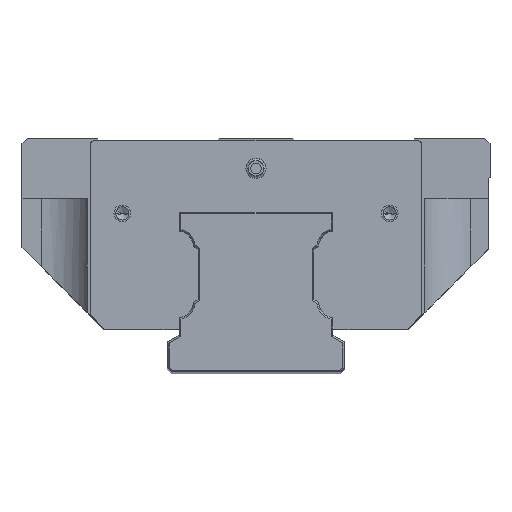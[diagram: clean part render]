
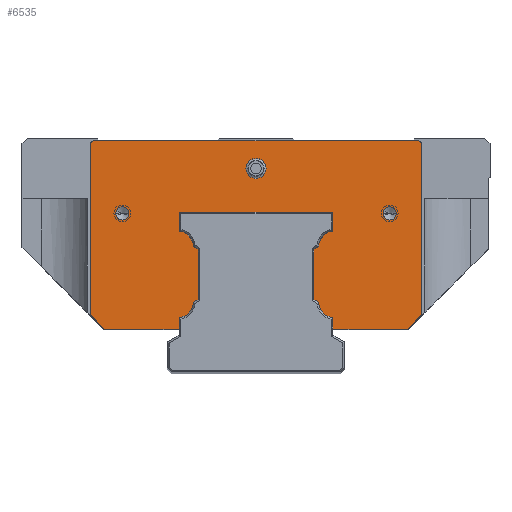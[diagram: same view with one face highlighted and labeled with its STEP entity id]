
A CAD part, top view. The second image highlights one B-rep face of the part: STEP entity #6535.
In plain terms, the highlighted planar face has unit normal (0, 0, 1).
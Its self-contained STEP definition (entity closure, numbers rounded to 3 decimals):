
#5539=CARTESIAN_POINT('',(48.5,-1.,21.7));
#5540=DIRECTION('',(0.,0.,1.));
#5541=DIRECTION('',(1.,0.,0.));
#5542=AXIS2_PLACEMENT_3D('',#5539,#5540,#5541);
#5547=DIRECTION('',(0.,1.,0.));
#5548=VECTOR('',#5547,51.1);
#5549=CARTESIAN_POINT('',(49.5,-52.1,21.7));
#5550=LINE('',#5549,#5548);
#5554=DIRECTION('',(0.707,0.707,0.));
#5555=VECTOR('',#5554,5.94);
#5556=CARTESIAN_POINT('',(45.3,-56.3,21.7));
#5557=LINE('',#5556,#5555);
#5561=DIRECTION('',(1.,0.,0.));
#5562=VECTOR('',#5561,22.3);
#5563=CARTESIAN_POINT('',(23.,-56.3,21.7));
#5564=LINE('',#5563,#5562);
#5568=DIRECTION('',(0.,1.,0.));
#5569=VECTOR('',#5568,3.295);
#5570=CARTESIAN_POINT('',(23.,-56.3,21.7));
#5571=LINE('',#5570,#5569);
#5575=CARTESIAN_POINT('',(23.571,-48.179,21.7));
#5576=DIRECTION('',(0.,0.,1.));
#5577=DIRECTION('',(-0.999,-0.039,0.));
#5578=AXIS2_PLACEMENT_3D('',#5575,#5576,#5577);
#5583=DIRECTION('',(-0.866,0.5,0.));
#5584=VECTOR('',#5583,1.633);
#5585=CARTESIAN_POINT('',(18.715,-48.367,21.7));
#5586=LINE('',#5585,#5584);
#5590=DIRECTION('',(0.,1.,0.));
#5591=VECTOR('',#5590,15.1);
#5592=CARTESIAN_POINT('',(17.3,-47.55,21.7));
#5593=LINE('',#5592,#5591);
#5597=DIRECTION('',(0.866,0.5,0.));
#5598=VECTOR('',#5597,1.633);
#5599=CARTESIAN_POINT('',(17.3,-32.45,21.7));
#5600=LINE('',#5599,#5598);
#5604=CARTESIAN_POINT('',(23.571,-31.821,21.7));
#5605=DIRECTION('',(0.,0.,1.));
#5606=DIRECTION('',(-0.117,0.993,0.));
#5607=AXIS2_PLACEMENT_3D('',#5604,#5605,#5606);
#5612=DIRECTION('',(0.,1.,0.));
#5613=VECTOR('',#5612,5.1);
#5614=CARTESIAN_POINT('',(23.,-26.995,21.7));
#5615=LINE('',#5614,#5613);
#5619=DIRECTION('',(-0.707,0.707,0.));
#5620=VECTOR('',#5619,0.7);
#5621=CARTESIAN_POINT('',(23.,-21.895,21.7));
#5622=LINE('',#5621,#5620);
#5626=DIRECTION('',(-1.,0.,0.));
#5627=VECTOR('',#5626,45.01);
#5628=CARTESIAN_POINT('',(22.505,-21.4,21.7));
#5629=LINE('',#5628,#5627);
#5633=DIRECTION('',(-0.707,-0.707,0.));
#5634=VECTOR('',#5633,0.7);
#5635=CARTESIAN_POINT('',(-22.505,-21.4,21.7));
#5636=LINE('',#5635,#5634);
#5640=DIRECTION('',(0.,-1.,0.));
#5641=VECTOR('',#5640,5.1);
#5642=CARTESIAN_POINT('',(-23.,-21.895,21.7));
#5643=LINE('',#5642,#5641);
#5647=CARTESIAN_POINT('',(-23.571,-31.821,21.7));
#5648=DIRECTION('',(0.,0.,1.));
#5649=DIRECTION('',(0.999,0.039,0.));
#5650=AXIS2_PLACEMENT_3D('',#5647,#5648,#5649);
#5655=DIRECTION('',(0.866,-0.5,0.));
#5656=VECTOR('',#5655,1.633);
#5657=CARTESIAN_POINT('',(-18.715,-31.633,21.7));
#5658=LINE('',#5657,#5656);
#5662=DIRECTION('',(0.,-1.,0.));
#5663=VECTOR('',#5662,15.1);
#5664=CARTESIAN_POINT('',(-17.3,-32.45,21.7));
#5665=LINE('',#5664,#5663);
#5669=DIRECTION('',(-0.866,-0.5,0.));
#5670=VECTOR('',#5669,1.633);
#5671=CARTESIAN_POINT('',(-17.3,-47.55,21.7));
#5672=LINE('',#5671,#5670);
#5676=CARTESIAN_POINT('',(-23.571,-48.179,21.7));
#5677=DIRECTION('',(0.,0.,1.));
#5678=DIRECTION('',(0.117,-0.993,0.));
#5679=AXIS2_PLACEMENT_3D('',#5676,#5677,#5678);
#5684=DIRECTION('',(0.,1.,0.));
#5685=VECTOR('',#5684,3.295);
#5686=CARTESIAN_POINT('',(-23.,-56.3,21.7));
#5687=LINE('',#5686,#5685);
#5691=DIRECTION('',(1.,0.,0.));
#5692=VECTOR('',#5691,22.3);
#5693=CARTESIAN_POINT('',(-45.3,-56.3,21.7));
#5694=LINE('',#5693,#5692);
#5698=DIRECTION('',(0.707,-0.707,0.));
#5699=VECTOR('',#5698,5.94);
#5700=CARTESIAN_POINT('',(-49.5,-52.1,21.7));
#5701=LINE('',#5700,#5699);
#5705=DIRECTION('',(0.,-1.,0.));
#5706=VECTOR('',#5705,51.1);
#5707=CARTESIAN_POINT('',(-49.5,-1.,21.7));
#5708=LINE('',#5707,#5706);
#5712=CARTESIAN_POINT('',(-48.5,-1.,21.7));
#5713=DIRECTION('',(0.,0.,1.));
#5714=DIRECTION('',(0.,1.,0.));
#5715=AXIS2_PLACEMENT_3D('',#5712,#5713,#5714);
#5720=DIRECTION('',(-1.,0.,0.));
#5721=VECTOR('',#5720,97.);
#5722=CARTESIAN_POINT('',(48.5,0.,21.7));
#5723=LINE('',#5722,#5721);
#5727=CARTESIAN_POINT('',(40.,-21.7,21.7));
#5728=DIRECTION('',(0.,0.,1.));
#5729=DIRECTION('',(-1.,0.,0.));
#5730=AXIS2_PLACEMENT_3D('',#5727,#5728,#5729);
#5735=CARTESIAN_POINT('',(40.,-21.7,21.7));
#5736=DIRECTION('',(0.,0.,1.));
#5737=DIRECTION('',(1.,0.,0.));
#5738=AXIS2_PLACEMENT_3D('',#5735,#5736,#5737);
#5743=CARTESIAN_POINT('',(-40.,-21.7,21.7));
#5744=DIRECTION('',(0.,0.,1.));
#5745=DIRECTION('',(-1.,0.,0.));
#5746=AXIS2_PLACEMENT_3D('',#5743,#5744,#5745);
#5751=CARTESIAN_POINT('',(-40.,-21.7,21.7));
#5752=DIRECTION('',(0.,0.,1.));
#5753=DIRECTION('',(1.,0.,0.));
#5754=AXIS2_PLACEMENT_3D('',#5751,#5752,#5753);
#5759=CARTESIAN_POINT('',(0.,-8.3,21.7));
#5760=DIRECTION('',(0.,0.,1.));
#5761=DIRECTION('',(-1.,0.,0.));
#5762=AXIS2_PLACEMENT_3D('',#5759,#5760,#5761);
#5767=CARTESIAN_POINT('',(0.,-8.3,21.7));
#5768=DIRECTION('',(0.,0.,1.));
#5769=DIRECTION('',(1.,0.,0.));
#5770=AXIS2_PLACEMENT_3D('',#5767,#5768,#5769);
#5943=CARTESIAN_POINT('',(45.3,-56.3,21.7));
#5944=CARTESIAN_POINT('',(49.5,-52.1,21.7));
#5945=VERTEX_POINT('',#5943);
#5946=VERTEX_POINT('',#5944);
#5947=CARTESIAN_POINT('',(-49.5,-52.1,21.7));
#5948=CARTESIAN_POINT('',(-45.3,-56.3,21.7));
#5949=VERTEX_POINT('',#5947);
#5950=VERTEX_POINT('',#5948);
#5957=CARTESIAN_POINT('',(38.,-21.7,21.7));
#5958=VERTEX_POINT('',#5957);
#5959=CARTESIAN_POINT('',(42.,-21.7,21.7));
#5960=VERTEX_POINT('',#5959);
#5967=CARTESIAN_POINT('',(-42.,-21.7,21.7));
#5968=VERTEX_POINT('',#5967);
#5969=CARTESIAN_POINT('',(-38.,-21.7,21.7));
#5970=VERTEX_POINT('',#5969);
#5977=CARTESIAN_POINT('',(-3.,-8.3,21.7));
#5978=CARTESIAN_POINT('',(3.,-8.3,21.7));
#5979=VERTEX_POINT('',#5977);
#5980=VERTEX_POINT('',#5978);
#5985=CARTESIAN_POINT('',(49.5,-1.,21.7));
#5986=VERTEX_POINT('',#5985);
#5987=CARTESIAN_POINT('',(48.5,0.,21.7));
#5988=VERTEX_POINT('',#5987);
#5993=CARTESIAN_POINT('',(-48.5,0.,21.7));
#5994=VERTEX_POINT('',#5993);
#5995=CARTESIAN_POINT('',(-49.5,-1.,21.7));
#5996=VERTEX_POINT('',#5995);
#6033=CARTESIAN_POINT('',(23.,-56.3,21.7));
#6034=VERTEX_POINT('',#6033);
#6035=CARTESIAN_POINT('',(-23.,-56.3,21.7));
#6036=VERTEX_POINT('',#6035);
#6037=CARTESIAN_POINT('',(23.,-53.005,21.7));
#6038=VERTEX_POINT('',#6037);
#6039=CARTESIAN_POINT('',(18.715,-48.367,21.7));
#6040=VERTEX_POINT('',#6039);
#6041=CARTESIAN_POINT('',(17.3,-47.55,21.7));
#6042=VERTEX_POINT('',#6041);
#6043=CARTESIAN_POINT('',(17.3,-32.45,21.7));
#6044=VERTEX_POINT('',#6043);
#6045=CARTESIAN_POINT('',(18.715,-31.633,21.7));
#6046=VERTEX_POINT('',#6045);
#6047=CARTESIAN_POINT('',(23.,-26.995,21.7));
#6048=VERTEX_POINT('',#6047);
#6049=CARTESIAN_POINT('',(23.,-21.895,21.7));
#6050=VERTEX_POINT('',#6049);
#6051=CARTESIAN_POINT('',(22.505,-21.4,21.7));
#6052=VERTEX_POINT('',#6051);
#6053=CARTESIAN_POINT('',(-22.505,-21.4,21.7));
#6054=VERTEX_POINT('',#6053);
#6055=CARTESIAN_POINT('',(-23.,-21.895,21.7));
#6056=VERTEX_POINT('',#6055);
#6057=CARTESIAN_POINT('',(-23.,-26.995,21.7));
#6058=VERTEX_POINT('',#6057);
#6059=CARTESIAN_POINT('',(-18.715,-31.633,21.7));
#6060=VERTEX_POINT('',#6059);
#6061=CARTESIAN_POINT('',(-17.3,-32.45,21.7));
#6062=VERTEX_POINT('',#6061);
#6063=CARTESIAN_POINT('',(-17.3,-47.55,21.7));
#6064=VERTEX_POINT('',#6063);
#6065=CARTESIAN_POINT('',(-18.715,-48.367,21.7));
#6066=VERTEX_POINT('',#6065);
#6067=CARTESIAN_POINT('',(-23.,-53.005,21.7));
#6068=VERTEX_POINT('',#6067);
#6480=CARTESIAN_POINT('',(0.,0.,21.7));
#6481=DIRECTION('',(0.,0.,1.));
#6482=DIRECTION('',(1.,0.,0.));
#6483=AXIS2_PLACEMENT_3D('',#6480,#6481,#6482);
#6484=PLANE('',#6483);
#6485=ORIENTED_EDGE('',*,*,#6144,.F.);
#6486=ORIENTED_EDGE('',*,*,#6167,.F.);
#6487=ORIENTED_EDGE('',*,*,#6187,.F.);
#6488=ORIENTED_EDGE('',*,*,#6207,.F.);
#6489=ORIENTED_EDGE('',*,*,#6251,.T.);
#6490=ORIENTED_EDGE('',*,*,#6265,.F.);
#6491=ORIENTED_EDGE('',*,*,#6279,.T.);
#6492=ORIENTED_EDGE('',*,*,#6293,.T.);
#6493=ORIENTED_EDGE('',*,*,#6307,.T.);
#6494=ORIENTED_EDGE('',*,*,#6321,.F.);
#6495=ORIENTED_EDGE('',*,*,#6335,.T.);
#6496=ORIENTED_EDGE('',*,*,#6349,.T.);
#6497=ORIENTED_EDGE('',*,*,#6363,.T.);
#6498=ORIENTED_EDGE('',*,*,#6377,.T.);
#6499=ORIENTED_EDGE('',*,*,#6391,.T.);
#6500=ORIENTED_EDGE('',*,*,#6405,.F.);
#6501=ORIENTED_EDGE('',*,*,#6419,.T.);
#6502=ORIENTED_EDGE('',*,*,#6433,.T.);
#6503=ORIENTED_EDGE('',*,*,#6447,.T.);
#6504=ORIENTED_EDGE('',*,*,#6461,.F.);
#6505=ORIENTED_EDGE('',*,*,#6474,.F.);
#6506=ORIENTED_EDGE('',*,*,#6231,.F.);
#6508=ORIENTED_EDGE('',*,*,#6507,.F.);
#6510=ORIENTED_EDGE('',*,*,#6509,.F.);
#6512=ORIENTED_EDGE('',*,*,#6511,.F.);
#6514=ORIENTED_EDGE('',*,*,#6513,.F.);
#6515=EDGE_LOOP('',(#6485,#6486,#6487,#6488,#6489,#6490,#6491,#6492,#6493,#6494,
#6495,#6496,#6497,#6498,#6499,#6500,#6501,#6502,#6503,#6504,#6505,#6506,#6508,
#6510,#6512,#6514));
#6516=FACE_OUTER_BOUND('',#6515,.F.);
#6518=ORIENTED_EDGE('',*,*,#6517,.T.);
#6520=ORIENTED_EDGE('',*,*,#6519,.T.);
#6521=EDGE_LOOP('',(#6518,#6520));
#6522=FACE_BOUND('',#6521,.F.);
#6524=ORIENTED_EDGE('',*,*,#6523,.T.);
#6526=ORIENTED_EDGE('',*,*,#6525,.T.);
#6527=EDGE_LOOP('',(#6524,#6526));
#6528=FACE_BOUND('',#6527,.F.);
#6530=ORIENTED_EDGE('',*,*,#6529,.T.);
#6532=ORIENTED_EDGE('',*,*,#6531,.T.);
#6533=EDGE_LOOP('',(#6530,#6532));
#6534=FACE_BOUND('',#6533,.F.);
#5543=CIRCLE('',#5542,1.);
#5579=CIRCLE('',#5578,4.86);
#5608=CIRCLE('',#5607,4.86);
#5651=CIRCLE('',#5650,4.86);
#5680=CIRCLE('',#5679,4.86);
#5716=CIRCLE('',#5715,1.);
#5731=CIRCLE('',#5730,2.);
#5739=CIRCLE('',#5738,2.);
#5747=CIRCLE('',#5746,2.);
#5755=CIRCLE('',#5754,2.);
#5763=CIRCLE('',#5762,3.);
#5771=CIRCLE('',#5770,3.);
#6144=EDGE_CURVE('',#5986,#5988,#5543,.T.);
#6167=EDGE_CURVE('',#5946,#5986,#5550,.T.);
#6187=EDGE_CURVE('',#5945,#5946,#5557,.T.);
#6207=EDGE_CURVE('',#6034,#5945,#5564,.T.);
#6231=EDGE_CURVE('',#5950,#6036,#5694,.T.);
#6251=EDGE_CURVE('',#6034,#6038,#5571,.T.);
#6265=EDGE_CURVE('',#6040,#6038,#5579,.T.);
#6279=EDGE_CURVE('',#6040,#6042,#5586,.T.);
#6293=EDGE_CURVE('',#6042,#6044,#5593,.T.);
#6307=EDGE_CURVE('',#6044,#6046,#5600,.T.);
#6321=EDGE_CURVE('',#6048,#6046,#5608,.T.);
#6335=EDGE_CURVE('',#6048,#6050,#5615,.T.);
#6349=EDGE_CURVE('',#6050,#6052,#5622,.T.);
#6363=EDGE_CURVE('',#6052,#6054,#5629,.T.);
#6377=EDGE_CURVE('',#6054,#6056,#5636,.T.);
#6391=EDGE_CURVE('',#6056,#6058,#5643,.T.);
#6405=EDGE_CURVE('',#6060,#6058,#5651,.T.);
#6419=EDGE_CURVE('',#6060,#6062,#5658,.T.);
#6433=EDGE_CURVE('',#6062,#6064,#5665,.T.);
#6447=EDGE_CURVE('',#6064,#6066,#5672,.T.);
#6461=EDGE_CURVE('',#6068,#6066,#5680,.T.);
#6474=EDGE_CURVE('',#6036,#6068,#5687,.T.);
#6507=EDGE_CURVE('',#5949,#5950,#5701,.T.);
#6509=EDGE_CURVE('',#5996,#5949,#5708,.T.);
#6511=EDGE_CURVE('',#5994,#5996,#5716,.T.);
#6513=EDGE_CURVE('',#5988,#5994,#5723,.T.);
#6517=EDGE_CURVE('',#5958,#5960,#5731,.T.);
#6519=EDGE_CURVE('',#5960,#5958,#5739,.T.);
#6523=EDGE_CURVE('',#5968,#5970,#5747,.T.);
#6525=EDGE_CURVE('',#5970,#5968,#5755,.T.);
#6529=EDGE_CURVE('',#5979,#5980,#5763,.T.);
#6531=EDGE_CURVE('',#5980,#5979,#5771,.T.);
#6535=ADVANCED_FACE('',(#6516,#6522,#6528,#6534),#6484,.T.);
